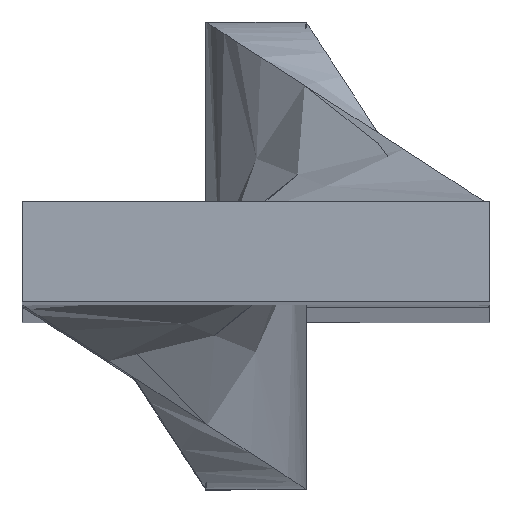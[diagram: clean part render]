
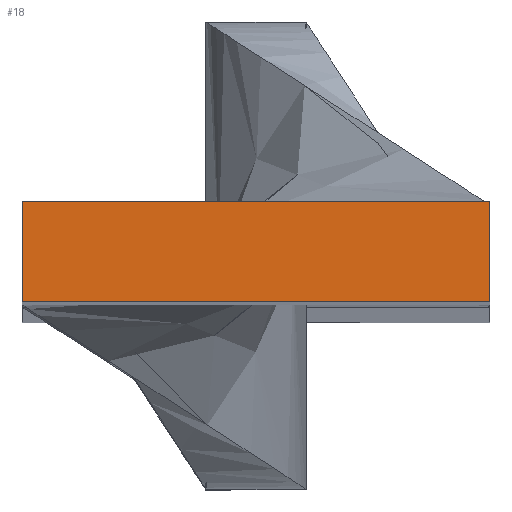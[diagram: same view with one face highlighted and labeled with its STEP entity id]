
A CAD part, top view. The second image highlights one B-rep face of the part: STEP entity #18.
In plain terms, the highlighted planar face has unit normal (0, 0, 1).
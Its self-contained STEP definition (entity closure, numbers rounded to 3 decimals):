
#13 = CARTESIAN_POINT ( 'NONE',  ( 7., -1.5, 358.5 ) ) ;
#18 = ADVANCED_FACE ( 'NONE', ( #700 ), #676, .F. ) ;
#26 = DIRECTION ( 'NONE',  ( -1., 0., 0. ) ) ;
#33 = CARTESIAN_POINT ( 'NONE',  ( -7., 1.5, 358.5 ) ) ;
#35 = CARTESIAN_POINT ( 'NONE',  ( 7., 1.5, 358.5 ) ) ;
#37 = DIRECTION ( 'NONE',  ( 1., 0., 0. ) ) ;
#54 = AXIS2_PLACEMENT_3D ( 'NONE', #733, #512, #238 ) ;
#55 = DIRECTION ( 'NONE',  ( 0., -1., 0. ) ) ;
#69 = EDGE_CURVE ( 'NONE', #731, #316, #395, .T. ) ;
#81 = VECTOR ( 'NONE', #26, 1000. ) ;
#110 = EDGE_LOOP ( 'NONE', ( #716, #482, #703, #695 ) ) ;
#125 = EDGE_CURVE ( 'NONE', #657, #731, #283, .T. ) ;
#130 = EDGE_CURVE ( 'NONE', #316, #717, #491, .T. ) ;
#138 = EDGE_CURVE ( 'NONE', #717, #657, #845, .T. ) ;
#157 = DIRECTION ( 'NONE',  ( 0., 1., 0. ) ) ;
#236 = VECTOR ( 'NONE', #37, 1000. ) ;
#238 = DIRECTION ( 'NONE',  ( -1., 0., 0. ) ) ;
#283 = LINE ( 'NONE', #13, #81 ) ;
#315 = VECTOR ( 'NONE', #157, 1000. ) ;
#316 = VERTEX_POINT ( 'NONE', #706 ) ;
#395 = LINE ( 'NONE', #842, #315 ) ;
#482 = ORIENTED_EDGE ( 'NONE', *, *, #125, .F. ) ;
#491 = LINE ( 'NONE', #33, #236 ) ;
#510 = CARTESIAN_POINT ( 'NONE',  ( 7., 1.5, 358.5 ) ) ;
#512 = DIRECTION ( 'NONE',  ( 0., 0., -1. ) ) ;
#515 = CARTESIAN_POINT ( 'NONE',  ( -7., -1.5, 358.5 ) ) ;
#657 = VERTEX_POINT ( 'NONE', #715 ) ;
#676 = PLANE ( 'NONE',  #54 ) ;
#695 = ORIENTED_EDGE ( 'NONE', *, *, #130, .F. ) ;
#700 = FACE_OUTER_BOUND ( 'NONE', #110, .T. ) ;
#703 = ORIENTED_EDGE ( 'NONE', *, *, #138, .F. ) ;
#706 = CARTESIAN_POINT ( 'NONE',  ( -7., 1.5, 358.5 ) ) ;
#715 = CARTESIAN_POINT ( 'NONE',  ( 7., -1.5, 358.5 ) ) ;
#716 = ORIENTED_EDGE ( 'NONE', *, *, #69, .F. ) ;
#717 = VERTEX_POINT ( 'NONE', #510 ) ;
#731 = VERTEX_POINT ( 'NONE', #515 ) ;
#733 = CARTESIAN_POINT ( 'NONE',  ( 0., 0., 358.5 ) ) ;
#821 = VECTOR ( 'NONE', #55, 1000. ) ;
#842 = CARTESIAN_POINT ( 'NONE',  ( -7., -1.5, 358.5 ) ) ;
#845 = LINE ( 'NONE', #35, #821 ) ;
